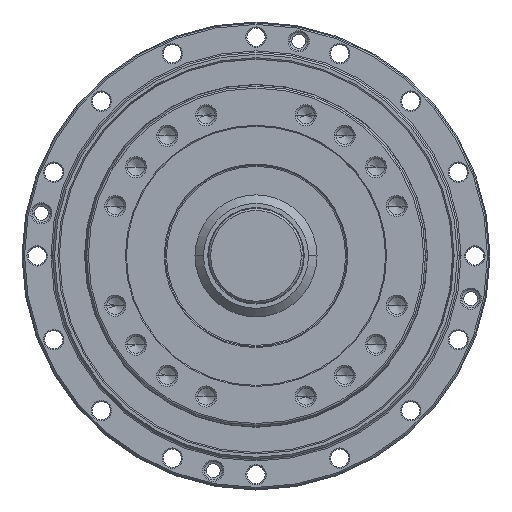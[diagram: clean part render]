
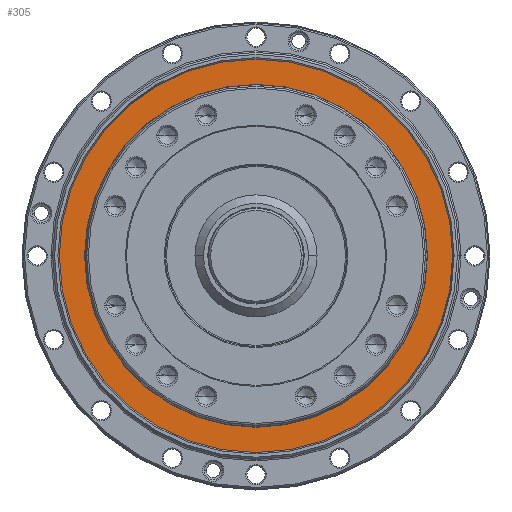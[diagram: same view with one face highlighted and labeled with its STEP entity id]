
A CAD part, top view. The second image highlights one B-rep face of the part: STEP entity #305.
In plain terms, the highlighted planar face has unit normal (0, 0, 1) as drawn and (0, 0, -1) by its records, which use the part's own axes.
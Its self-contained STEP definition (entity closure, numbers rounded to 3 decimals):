
#231 = DIRECTION ( 'NONE',  ( 0., 0., 1. ) ) ;
#305 = ADVANCED_FACE ( 'NONE', ( #3977, #9793 ), #5334, .F. ) ;
#1387 = EDGE_CURVE ( 'NONE', #5878, #8758, #3608, .T. ) ;
#1894 = CARTESIAN_POINT ( 'NONE',  ( 85., 0., 0. ) ) ;
#3237 = DIRECTION ( 'NONE',  ( 1., 0., 0. ) ) ;
#3608 = CIRCLE ( 'NONE', #9585, 97.5 ) ;
#3890 = EDGE_CURVE ( 'NONE', #3973, #10511, #9878, .T. ) ;
#3930 = ORIENTED_EDGE ( 'NONE', *, *, #3890, .T. ) ;
#3973 = VERTEX_POINT ( 'NONE', #7997 ) ;
#3977 = FACE_OUTER_BOUND ( 'NONE', #7597, .T. ) ;
#4874 = EDGE_LOOP ( 'NONE', ( #3930, #7961 ) ) ;
#5334 = PLANE ( 'NONE',  #7206 ) ;
#5409 = CARTESIAN_POINT ( 'NONE',  ( 0., 0., 0. ) ) ;
#5418 = AXIS2_PLACEMENT_3D ( 'NONE', #10622, #7876, #10748 ) ;
#5878 = VERTEX_POINT ( 'NONE', #11144 ) ;
#6373 = DIRECTION ( 'NONE',  ( 0., 0., 1. ) ) ;
#7206 = AXIS2_PLACEMENT_3D ( 'NONE', #5409, #231, #8440 ) ;
#7392 = ORIENTED_EDGE ( 'NONE', *, *, #10216, .F. ) ;
#7597 = EDGE_LOOP ( 'NONE', ( #7392, #8454 ) ) ;
#7876 = DIRECTION ( 'NONE',  ( 0., 0., 1. ) ) ;
#7961 = ORIENTED_EDGE ( 'NONE', *, *, #10325, .T. ) ;
#7997 = CARTESIAN_POINT ( 'NONE',  ( -85., 0., 0. ) ) ;
#8135 = DIRECTION ( 'NONE',  ( 1., 0., 0. ) ) ;
#8420 = CARTESIAN_POINT ( 'NONE',  ( 0., 0., 0. ) ) ;
#8440 = DIRECTION ( 'NONE',  ( 1., 0., 0. ) ) ;
#8454 = ORIENTED_EDGE ( 'NONE', *, *, #1387, .F. ) ;
#8491 = DIRECTION ( 'NONE',  ( 0., 0., 1. ) ) ;
#8758 = VERTEX_POINT ( 'NONE', #11352 ) ;
#8828 = AXIS2_PLACEMENT_3D ( 'NONE', #11346, #11507, #3237 ) ;
#9407 = DIRECTION ( 'NONE',  ( 1., 0., 0. ) ) ;
#9527 = CIRCLE ( 'NONE', #10917, 85. ) ;
#9585 = AXIS2_PLACEMENT_3D ( 'NONE', #8420, #8491, #9407 ) ;
#9793 = FACE_BOUND ( 'NONE', #4874, .T. ) ;
#9878 = CIRCLE ( 'NONE', #8828, 85. ) ;
#10216 = EDGE_CURVE ( 'NONE', #8758, #5878, #10226, .T. ) ;
#10226 = CIRCLE ( 'NONE', #5418, 97.5 ) ;
#10325 = EDGE_CURVE ( 'NONE', #10511, #3973, #9527, .T. ) ;
#10511 = VERTEX_POINT ( 'NONE', #1894 ) ;
#10622 = CARTESIAN_POINT ( 'NONE',  ( 0., 0., 0. ) ) ;
#10748 = DIRECTION ( 'NONE',  ( 1., 0., 0. ) ) ;
#10828 = CARTESIAN_POINT ( 'NONE',  ( 0., 0., 0. ) ) ;
#10917 = AXIS2_PLACEMENT_3D ( 'NONE', #10828, #6373, #8135 ) ;
#11144 = CARTESIAN_POINT ( 'NONE',  ( 97.5, 0., 0. ) ) ;
#11346 = CARTESIAN_POINT ( 'NONE',  ( 0., 0., 0. ) ) ;
#11352 = CARTESIAN_POINT ( 'NONE',  ( -97.5, 0., 0. ) ) ;
#11507 = DIRECTION ( 'NONE',  ( 0., 0., 1. ) ) ;
